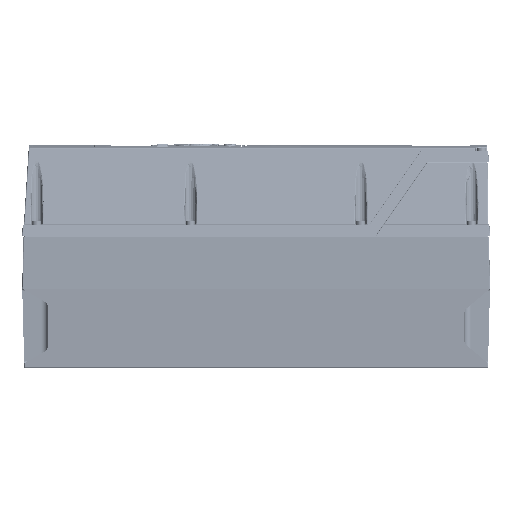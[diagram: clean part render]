
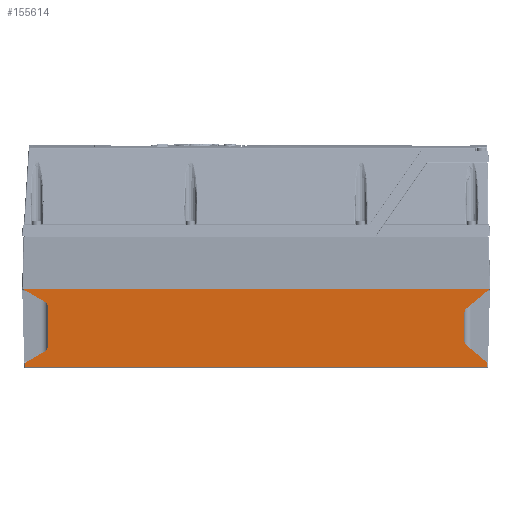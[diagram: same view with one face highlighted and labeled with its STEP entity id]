
A CAD part, left-side view. The second image highlights one B-rep face of the part: STEP entity #155614.
In plain terms, the highlighted planar face has unit normal (-1, 0, -0.026).
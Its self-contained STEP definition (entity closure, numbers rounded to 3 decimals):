
#7533=CARTESIAN_POINT('',(-120.983,-209.245,
10.616));
#7785=CARTESIAN_POINT('',(-119.673,-188.786,
-39.426));
#7786=CARTESIAN_POINT('',(-119.68,-188.488,
-39.176));
#7787=CARTESIAN_POINT('',(-119.694,-187.982,
-38.635));
#7788=CARTESIAN_POINT('',(-119.718,-187.435,
-37.724));
#7789=CARTESIAN_POINT('',(-119.744,-187.089,
-36.72));
#7790=CARTESIAN_POINT('',(-119.763,-187.,-35.984));
#7791=CARTESIAN_POINT('',(-119.773,-187.,-35.595));
#7937=CARTESIAN_POINT('',(-119.267,-207.267,
-54.933));
#8144=CARTESIAN_POINT('',(-120.434,-187.,-10.381));
#8145=CARTESIAN_POINT('',(-120.444,-187.,-9.992));
#8146=CARTESIAN_POINT('',(-120.463,-187.089,
-9.257));
#8147=CARTESIAN_POINT('',(-120.489,-187.435,
-8.252));
#8148=CARTESIAN_POINT('',(-120.513,-187.982,
-7.341));
#8149=CARTESIAN_POINT('',(-120.527,-188.488,
-6.8));
#8150=CARTESIAN_POINT('',(-120.534,-188.786,
-6.551));
#8152=DIRECTION('',(-0.013,-0.866,0.5));
#8153=VECTOR('',#8152,20.51);
#8154=CARTESIAN_POINT('',(-119.26,207.261,
-55.185));
#8155=LINE('',#8154,#8153);
#8156=DIRECTION('',(-0.026,0.,1.));
#8157=VECTOR('',#8156,35.698);
#8158=CARTESIAN_POINT('',(-119.642,187.,-40.601));
#8159=LINE('',#8158,#8157);
#8160=DIRECTION('',(-0.013,0.866,0.5));
#8161=VECTOR('',#8160,22.758);
#8162=CARTESIAN_POINT('',(-120.69,189.5,-0.586));
#8163=LINE('',#8162,#8161);
#8164=CARTESIAN_POINT('',(-121.,209.,11.25));
#8165=CARTESIAN_POINT('',(-121.,209.012,11.25));
#8166=CARTESIAN_POINT('',(-121.,209.029,11.242));
#8167=CARTESIAN_POINT('',(-120.999,209.057,11.217));
#8168=CARTESIAN_POINT('',(-120.998,209.084,11.175));
#8169=CARTESIAN_POINT('',(-120.997,209.11,11.119));
#8170=CARTESIAN_POINT('',(-120.994,209.141,11.038));
#8171=CARTESIAN_POINT('',(-120.992,209.174,10.93));
#8172=CARTESIAN_POINT('',(-120.989,209.196,10.838));
#8173=CARTESIAN_POINT('',(-120.988,209.207,10.792));
#8175=CARTESIAN_POINT('',(-120.983,-209.245,
10.616));
#8176=CARTESIAN_POINT('',(-120.985,-209.232,
10.679));
#8177=CARTESIAN_POINT('',(-120.987,-209.213,
10.771));
#8178=CARTESIAN_POINT('',(-120.991,-209.183,
10.891));
#8179=CARTESIAN_POINT('',(-120.993,-209.159,
10.978));
#8180=CARTESIAN_POINT('',(-120.995,-209.132,
11.062));
#8181=CARTESIAN_POINT('',(-120.997,-209.107,
11.127));
#8182=CARTESIAN_POINT('',(-120.998,-209.083,
11.176));
#8183=CARTESIAN_POINT('',(-120.999,-209.062,
11.209));
#8184=CARTESIAN_POINT('',(-121.,-209.037,
11.237));
#8185=CARTESIAN_POINT('',(-121.,-209.016,11.25));
#8186=CARTESIAN_POINT('',(-121.,-209.,11.25));
#8188=DIRECTION('',(0.017,0.766,-0.643));
#8189=VECTOR('',#8188,26.711);
#8190=CARTESIAN_POINT('',(-120.983,-209.245,
10.616));
#8191=LINE('',#8190,#8189);
#8192=DIRECTION('',(0.026,0.,-1.));
#8193=VECTOR('',#8192,25.223);
#8194=CARTESIAN_POINT('',(-120.434,-187.,-10.381));
#8195=LINE('',#8194,#8193);
#8196=DIRECTION('',(0.017,-0.766,-0.643));
#8197=VECTOR('',#8196,24.129);
#8198=CARTESIAN_POINT('',(-119.673,-188.786,
-39.426));
#8199=LINE('',#8198,#8197);
#8200=DIRECTION('',(0.026,0.026,-0.999));
#8201=VECTOR('',#8200,4.096);
#8202=CARTESIAN_POINT('',(-119.267,-207.267,
-54.933));
#8203=LINE('',#8202,#8201);
#8204=DIRECTION('',(0.,-1.,0.));
#8205=VECTOR('',#8204,414.32);
#8206=CARTESIAN_POINT('',(-119.16,207.16,
-59.026));
#8207=LINE('',#8206,#8205);
#8208=DIRECTION('',(-0.026,0.026,0.999));
#8209=VECTOR('',#8208,3.843);
#8210=CARTESIAN_POINT('',(-119.16,207.16,
-59.026));
#8211=LINE('',#8210,#8209);
#8254=CARTESIAN_POINT('',(-119.26,207.261,
-55.185));
#12035=CARTESIAN_POINT('',(-119.642,187.,-40.601));
#12036=CARTESIAN_POINT('',(-119.63,187.,-41.082));
#12037=CARTESIAN_POINT('',(-119.606,187.134,
-41.967));
#12038=CARTESIAN_POINT('',(-119.576,187.625,
-43.127));
#12039=CARTESIAN_POINT('',(-119.55,188.384,
-44.132));
#12040=CARTESIAN_POINT('',(-119.535,189.083,
-44.691));
#12041=CARTESIAN_POINT('',(-119.529,189.5,-44.931));
#12123=CARTESIAN_POINT('',(-120.69,189.5,-0.586));
#12124=CARTESIAN_POINT('',(-120.684,189.083,
-0.826));
#12125=CARTESIAN_POINT('',(-120.669,188.384,
-1.385));
#12126=CARTESIAN_POINT('',(-120.643,187.625,
-2.39));
#12127=CARTESIAN_POINT('',(-120.612,187.134,
-3.55));
#12128=CARTESIAN_POINT('',(-120.589,187.,-4.435));
#12129=CARTESIAN_POINT('',(-120.577,187.,-4.916));
#12389=DIRECTION('',(0.,-1.,0.));
#12390=VECTOR('',#12389,418.);
#12391=CARTESIAN_POINT('',(-121.,209.,11.25));
#12392=LINE('',#12391,#12390);
#128951=CARTESIAN_POINT('',(-121.,209.,11.25));
#128952=VERTEX_POINT('',#128951);
#128953=VERTEX_POINT('',#8173);
#128964=VERTEX_POINT('',#7533);
#128965=VERTEX_POINT('',#8186);
#129004=VERTEX_POINT('',#8254);
#129005=VERTEX_POINT('',#7937);
#129074=CARTESIAN_POINT('',(-119.16,207.16,
-59.026));
#129075=VERTEX_POINT('',#129074);
#129078=CARTESIAN_POINT('',(-119.16,-207.16,
-59.026));
#129079=VERTEX_POINT('',#129078);
#130893=CARTESIAN_POINT('',(-119.642,187.,-40.601));
#130894=CARTESIAN_POINT('',(-120.577,187.,-4.916));
#130895=VERTEX_POINT('',#130893);
#130896=VERTEX_POINT('',#130894);
#130897=CARTESIAN_POINT('',(-120.434,-187.,-10.381));
#130898=CARTESIAN_POINT('',(-119.773,-187.,-35.595));
#130899=VERTEX_POINT('',#130897);
#130900=VERTEX_POINT('',#130898);
#130907=CARTESIAN_POINT('',(-120.69,189.5,-0.586));
#130908=VERTEX_POINT('',#130907);
#130909=CARTESIAN_POINT('',(-120.534,-188.786,
-6.551));
#130910=VERTEX_POINT('',#130909);
#130915=CARTESIAN_POINT('',(-119.529,189.5,-44.931));
#130916=VERTEX_POINT('',#130915);
#130917=CARTESIAN_POINT('',(-119.673,-188.786,
-39.426));
#130918=VERTEX_POINT('',#130917);
#155581=CARTESIAN_POINT('',(-121.,210.,11.25));
#155582=DIRECTION('',(-1.,0.,-0.026));
#155583=DIRECTION('',(0.,-1.,0.));
#155584=AXIS2_PLACEMENT_3D('',#155581,#155582,#155583);
#155585=PLANE('',#155584);
#155587=ORIENTED_EDGE('',*,*,#155586,.T.);
#155589=ORIENTED_EDGE('',*,*,#155588,.F.);
#155591=ORIENTED_EDGE('',*,*,#155590,.T.);
#155593=ORIENTED_EDGE('',*,*,#155592,.F.);
#155595=ORIENTED_EDGE('',*,*,#155594,.T.);
#155597=ORIENTED_EDGE('',*,*,#155596,.F.);
#155599=ORIENTED_EDGE('',*,*,#155598,.T.);
#155600=ORIENTED_EDGE('',*,*,#154336,.F.);
#155601=ORIENTED_EDGE('',*,*,#154358,.T.);
#155602=ORIENTED_EDGE('',*,*,#155575,.F.);
#155603=ORIENTED_EDGE('',*,*,#154783,.T.);
#155604=ORIENTED_EDGE('',*,*,#154808,.F.);
#155605=ORIENTED_EDGE('',*,*,#155120,.T.);
#155607=ORIENTED_EDGE('',*,*,#155606,.T.);
#155609=ORIENTED_EDGE('',*,*,#155608,.F.);
#155611=ORIENTED_EDGE('',*,*,#155610,.T.);
#155612=EDGE_LOOP('',(#155587,#155589,#155591,#155593,#155595,#155597,#155599,
#155600,#155601,#155602,#155603,#155604,#155605,#155607,#155609,#155611));
#155613=FACE_OUTER_BOUND('',#155612,.F.);
#7792=B_SPLINE_CURVE_WITH_KNOTS('',3,(#7785,#7786,#7787,#7788,#7789,#7790,
#7791),.UNSPECIFIED.,.F.,.F.,(4,1,1,1,4),(0.,0.25,0.5,0.75,1.),
.UNSPECIFIED.);
#8151=B_SPLINE_CURVE_WITH_KNOTS('',3,(#8144,#8145,#8146,#8147,#8148,#8149,
#8150),.UNSPECIFIED.,.F.,.F.,(4,1,1,1,4),(0.,0.25,0.5,0.75,1.),
.UNSPECIFIED.);
#8174=B_SPLINE_CURVE_WITH_KNOTS('',3,(#8164,#8165,#8166,#8167,#8168,#8169,#8170,
#8171,#8172,#8173),.UNSPECIFIED.,.F.,.F.,(4,1,1,1,1,1,1,4),(0.,0.063,
0.125,0.25,0.375,0.5,0.75,1.),.UNSPECIFIED.);
#8187=B_SPLINE_CURVE_WITH_KNOTS('',3,(#8175,#8176,#8177,#8178,#8179,#8180,#8181,
#8182,#8183,#8184,#8185,#8186),.UNSPECIFIED.,.F.,.F.,(4,1,1,1,1,1,1,1,1,4),
(0.,0.25,0.375,0.5,0.625,0.75,0.813,0.875,0.938,1.),
.UNSPECIFIED.);
#12042=B_SPLINE_CURVE_WITH_KNOTS('',3,(#12035,#12036,#12037,#12038,#12039,
#12040,#12041),.UNSPECIFIED.,.F.,.F.,(4,1,1,1,4),(0.,0.25,0.5,0.75,
1.),.UNSPECIFIED.);
#12130=B_SPLINE_CURVE_WITH_KNOTS('',3,(#12123,#12124,#12125,#12126,#12127,
#12128,#12129),.UNSPECIFIED.,.F.,.F.,(4,1,1,1,4),(0.,0.25,0.5,0.75,
1.),.UNSPECIFIED.);
#154336=EDGE_CURVE('',#128964,#128965,#8187,.T.);
#154358=EDGE_CURVE('',#128964,#130910,#8191,.T.);
#154783=EDGE_CURVE('',#130899,#130900,#8195,.T.);
#154808=EDGE_CURVE('',#130918,#130900,#7792,.T.);
#155120=EDGE_CURVE('',#130918,#129005,#8199,.T.);
#155575=EDGE_CURVE('',#130899,#130910,#8151,.T.);
#155586=EDGE_CURVE('',#129004,#130916,#8155,.T.);
#155588=EDGE_CURVE('',#130895,#130916,#12042,.T.);
#155590=EDGE_CURVE('',#130895,#130896,#8159,.T.);
#155592=EDGE_CURVE('',#130908,#130896,#12130,.T.);
#155594=EDGE_CURVE('',#130908,#128953,#8163,.T.);
#155596=EDGE_CURVE('',#128952,#128953,#8174,.T.);
#155598=EDGE_CURVE('',#128952,#128965,#12392,.T.);
#155606=EDGE_CURVE('',#129005,#129079,#8203,.T.);
#155608=EDGE_CURVE('',#129075,#129079,#8207,.T.);
#155610=EDGE_CURVE('',#129075,#129004,#8211,.T.);
#155614=ADVANCED_FACE('',(#155613),#155585,.T.);
